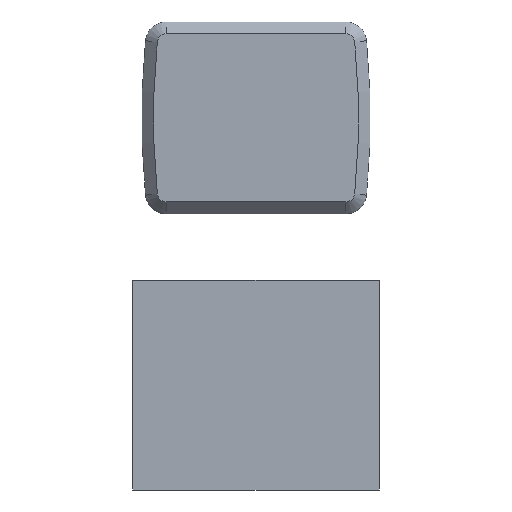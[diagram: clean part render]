
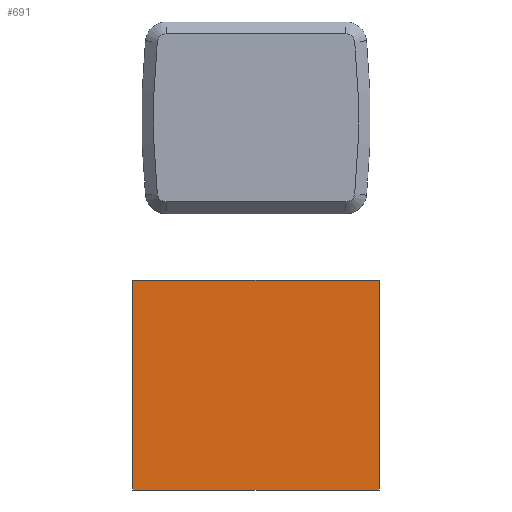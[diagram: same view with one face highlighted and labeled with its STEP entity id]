
A CAD part, front view. The second image highlights one B-rep face of the part: STEP entity #691.
In plain terms, the highlighted planar face has unit normal (0, -1, 0).
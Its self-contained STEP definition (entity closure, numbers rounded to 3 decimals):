
#22 = VECTOR ( 'NONE', #945, 1000. ) ;
#93 = EDGE_CURVE ( 'NONE', #919, #1063, #584, .T. ) ;
#109 = DIRECTION ( 'NONE',  ( -1., 0., 0. ) ) ;
#112 = ORIENTED_EDGE ( 'NONE', *, *, #872, .T. ) ;
#122 = DIRECTION ( 'NONE',  ( 1., 0., 0. ) ) ;
#151 = CARTESIAN_POINT ( 'NONE',  ( -207.5, -10., -273.5 ) ) ;
#177 = VECTOR ( 'NONE', #332, 1000. ) ;
#181 = AXIS2_PLACEMENT_3D ( 'NONE', #683, #1144, #483 ) ;
#210 = CARTESIAN_POINT ( 'NONE',  ( 207.5, -10., -273.5 ) ) ;
#328 = ORIENTED_EDGE ( 'NONE', *, *, #678, .T. ) ;
#332 = DIRECTION ( 'NONE',  ( 0., 0., -1. ) ) ;
#357 = VECTOR ( 'NONE', #122, 1000. ) ;
#384 = PLANE ( 'NONE',  #181 ) ;
#391 = CARTESIAN_POINT ( 'NONE',  ( -207.5, -10., -626.5 ) ) ;
#400 = ORIENTED_EDGE ( 'NONE', *, *, #93, .T. ) ;
#411 = EDGE_CURVE ( 'NONE', #1063, #603, #982, .T. ) ;
#483 = DIRECTION ( 'NONE',  ( 0., 0., 1. ) ) ;
#491 = LINE ( 'NONE', #1124, #711 ) ;
#569 = CARTESIAN_POINT ( 'NONE',  ( -207.5, -10., -273.5 ) ) ;
#584 = LINE ( 'NONE', #151, #177 ) ;
#591 = FACE_OUTER_BOUND ( 'NONE', #1109, .T. ) ;
#603 = VERTEX_POINT ( 'NONE', #650 ) ;
#650 = CARTESIAN_POINT ( 'NONE',  ( 207.5, -10., -626.5 ) ) ;
#678 = EDGE_CURVE ( 'NONE', #850, #919, #491, .T. ) ;
#683 = CARTESIAN_POINT ( 'NONE',  ( 151.205, -10., -323.5 ) ) ;
#691 = ADVANCED_FACE ( 'NONE', ( #591 ), #384, .F. ) ;
#711 = VECTOR ( 'NONE', #109, 1000. ) ;
#738 = LINE ( 'NONE', #210, #22 ) ;
#788 = ORIENTED_EDGE ( 'NONE', *, *, #411, .T. ) ;
#850 = VERTEX_POINT ( 'NONE', #969 ) ;
#872 = EDGE_CURVE ( 'NONE', #603, #850, #738, .T. ) ;
#919 = VERTEX_POINT ( 'NONE', #569 ) ;
#945 = DIRECTION ( 'NONE',  ( 0., 0., 1. ) ) ;
#969 = CARTESIAN_POINT ( 'NONE',  ( 207.5, -10., -273.5 ) ) ;
#982 = LINE ( 'NONE', #391, #357 ) ;
#1063 = VERTEX_POINT ( 'NONE', #1172 ) ;
#1109 = EDGE_LOOP ( 'NONE', ( #112, #328, #400, #788 ) ) ;
#1124 = CARTESIAN_POINT ( 'NONE',  ( -207.5, -10., -273.5 ) ) ;
#1144 = DIRECTION ( 'NONE',  ( 0., 1., 0. ) ) ;
#1172 = CARTESIAN_POINT ( 'NONE',  ( -207.5, -10., -626.5 ) ) ;
